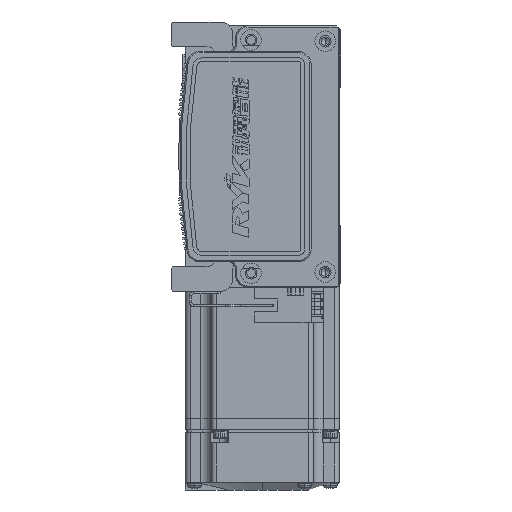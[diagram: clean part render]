
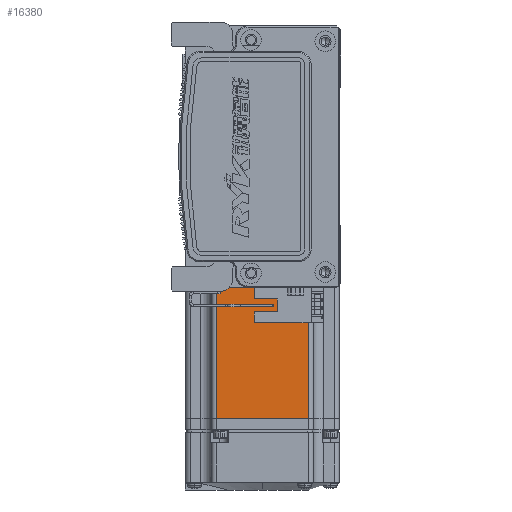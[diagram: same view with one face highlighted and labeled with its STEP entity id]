
A CAD part, left-side view. The second image highlights one B-rep face of the part: STEP entity #16380.
In plain terms, the highlighted planar face has unit normal (-1, 0, 0) as drawn and (0, 0, 1) by its records, which use the part's own axes.
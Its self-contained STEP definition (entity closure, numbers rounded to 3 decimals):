
#2334 = LINE ( 'NONE', #40395, #47512 ) ;
#6095 = VECTOR ( 'NONE', #61972, 1000. ) ;
#7499 = AXIS2_PLACEMENT_3D ( 'NONE', #27196, #32327, #10858 ) ;
#7664 = DIRECTION ( 'NONE',  ( -1., 0., 0. ) ) ;
#10858 = DIRECTION ( 'NONE',  ( 1., 0., 0. ) ) ;
#14686 = CARTESIAN_POINT ( 'NONE',  ( -7.75, 18., 30. ) ) ;
#15786 = CARTESIAN_POINT ( 'NONE',  ( -7.75, 0., 30. ) ) ;
#16380 = ADVANCED_FACE ( 'NONE', ( #36036 ), #64478, .T. ) ;
#16427 = DIRECTION ( 'NONE',  ( -1., 0., 0. ) ) ;
#18068 = VERTEX_POINT ( 'NONE', #51670 ) ;
#18740 = VERTEX_POINT ( 'NONE', #14686 ) ;
#19313 = CARTESIAN_POINT ( 'NONE',  ( -70.95, 0., 30. ) ) ;
#19736 = EDGE_CURVE ( 'NONE', #42819, #18068, #2334, .T. ) ;
#20707 = DIRECTION ( 'NONE',  ( 0., -1., 0. ) ) ;
#27196 = CARTESIAN_POINT ( 'NONE',  ( -6.5, -25., 30. ) ) ;
#32327 = DIRECTION ( 'NONE',  ( 0., 0., 1. ) ) ;
#32550 = VECTOR ( 'NONE', #16427, 1000. ) ;
#32851 = ORIENTED_EDGE ( 'NONE', *, *, #49288, .T. ) ;
#36036 = FACE_OUTER_BOUND ( 'NONE', #64943, .T. ) ;
#37601 = LINE ( 'NONE', #59571, #32550 ) ;
#37661 = ORIENTED_EDGE ( 'NONE', *, *, #43003, .T. ) ;
#38976 = VERTEX_POINT ( 'NONE', #67556 ) ;
#38991 = CARTESIAN_POINT ( 'NONE',  ( -7.75, -18., 30. ) ) ;
#39440 = ORIENTED_EDGE ( 'NONE', *, *, #19736, .F. ) ;
#40224 = ORIENTED_EDGE ( 'NONE', *, *, #63594, .F. ) ;
#40395 = CARTESIAN_POINT ( 'NONE',  ( -6.5, -18., 30. ) ) ;
#42819 = VERTEX_POINT ( 'NONE', #38991 ) ;
#43003 = EDGE_CURVE ( 'NONE', #38976, #18068, #53678, .T. ) ;
#47512 = VECTOR ( 'NONE', #7664, 1000. ) ;
#49288 = EDGE_CURVE ( 'NONE', #18740, #38976, #37601, .T. ) ;
#51670 = CARTESIAN_POINT ( 'NONE',  ( -70.95, -18., 30. ) ) ;
#53678 = LINE ( 'NONE', #19313, #6095 ) ;
#56227 = LINE ( 'NONE', #15786, #58654 ) ;
#58654 = VECTOR ( 'NONE', #20707, 1000. ) ;
#59571 = CARTESIAN_POINT ( 'NONE',  ( -6.5, 18., 30. ) ) ;
#61972 = DIRECTION ( 'NONE',  ( 0., -1., 0. ) ) ;
#63594 = EDGE_CURVE ( 'NONE', #18740, #42819, #56227, .T. ) ;
#64478 = PLANE ( 'NONE',  #7499 ) ;
#64943 = EDGE_LOOP ( 'NONE', ( #40224, #32851, #37661, #39440 ) ) ;
#67556 = CARTESIAN_POINT ( 'NONE',  ( -70.95, 18., 30. ) ) ;
